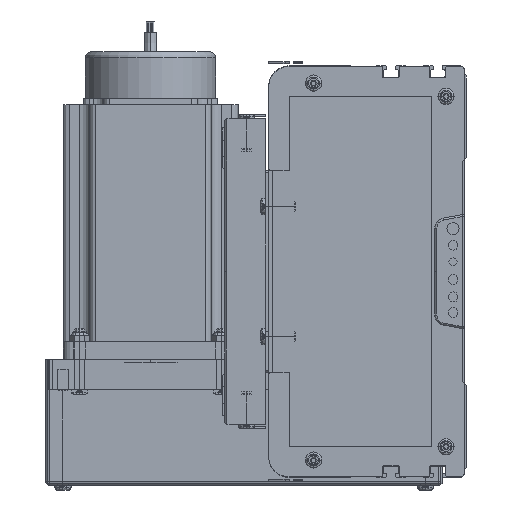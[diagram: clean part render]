
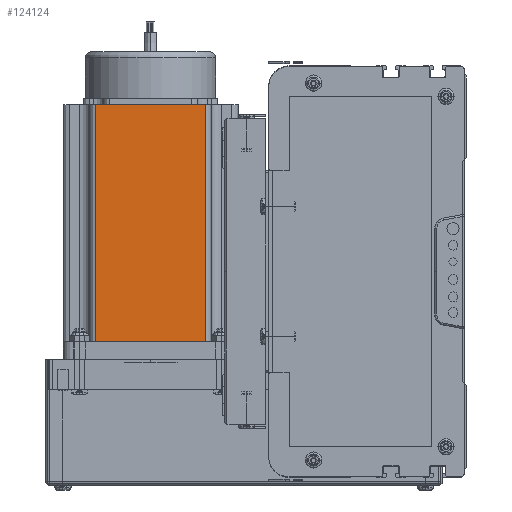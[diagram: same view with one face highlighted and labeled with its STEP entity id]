
A CAD part, left-side view. The second image highlights one B-rep face of the part: STEP entity #124124.
In plain terms, the highlighted planar face has unit normal (-1, 0, 0) as drawn and (0, -1, 0) by its records, which use the part's own axes.
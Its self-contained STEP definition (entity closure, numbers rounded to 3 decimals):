
#3696 = DIRECTION ( 'NONE',  ( 1., 0., 0. ) ) ;
#3698 = VECTOR ( 'NONE', #3696, 1000. ) ;
#3700 = CARTESIAN_POINT ( 'NONE',  ( 0., 0., 116.5 ) ) ;
#3703 = LINE ( 'NONE', #3700, #3698 ) ;
#4148 = CARTESIAN_POINT ( 'NONE',  ( 69.74, 0., 0. ) ) ;
#4286 = LINE ( 'NONE', #4773, #4763 ) ;
#4362 = PLANE ( 'NONE',  #4625 ) ;
#4411 = CARTESIAN_POINT ( 'NONE',  ( 16.16, 0., 116.5 ) ) ;
#4540 = DIRECTION ( 'NONE',  ( 1., 0., 0. ) ) ;
#4541 = VECTOR ( 'NONE', #4540, 1000. ) ;
#4543 = CARTESIAN_POINT ( 'NONE',  ( 0., 0., 0. ) ) ;
#4545 = LINE ( 'NONE', #4543, #4541 ) ;
#4550 = DIRECTION ( 'NONE',  ( 0., 0., 1. ) ) ;
#4553 = VECTOR ( 'NONE', #4550, 1000. ) ;
#4555 = CARTESIAN_POINT ( 'NONE',  ( 69.74, 0., 116.5 ) ) ;
#4557 = LINE ( 'NONE', #4555, #4553 ) ;
#4625 = AXIS2_PLACEMENT_3D ( 'NONE', #4642, #4658, #4657 ) ;
#4642 = CARTESIAN_POINT ( 'NONE',  ( 0., 0., 116.5 ) ) ;
#4648 = FACE_OUTER_BOUND ( 'NONE', #124058, .T. ) ;
#4657 = DIRECTION ( 'NONE',  ( 0., 0., 1. ) ) ;
#4658 = DIRECTION ( 'NONE',  ( 0., 1., 0. ) ) ;
#4759 = CARTESIAN_POINT ( 'NONE',  ( 69.74, 0., 116.5 ) ) ;
#4763 = VECTOR ( 'NONE', #4770, 1000. ) ;
#4770 = DIRECTION ( 'NONE',  ( 0., 0., -1. ) ) ;
#4773 = CARTESIAN_POINT ( 'NONE',  ( 16.16, 0., 116.5 ) ) ;
#5550 = CARTESIAN_POINT ( 'NONE',  ( 16.16, 0., 0. ) ) ;
#123973 = EDGE_CURVE ( 'NONE', #124087, #124068, #3703, .T. ) ;
#124057 = EDGE_CURVE ( 'NONE', #124087, #124179, #4286, .T. ) ;
#124058 = EDGE_LOOP ( 'NONE', ( #124142, #124126, #124177, #124070 ) ) ;
#124066 = VERTEX_POINT ( 'NONE', #4148 ) ;
#124068 = VERTEX_POINT ( 'NONE', #4759 ) ;
#124070 = ORIENTED_EDGE ( 'NONE', *, *, #124057, .T. ) ;
#124087 = VERTEX_POINT ( 'NONE', #4411 ) ;
#124124 = ADVANCED_FACE ( 'NONE', ( #4648 ), #4362, .F. ) ;
#124126 = ORIENTED_EDGE ( 'NONE', *, *, #124143, .T. ) ;
#124142 = ORIENTED_EDGE ( 'NONE', *, *, #124146, .T. ) ;
#124143 = EDGE_CURVE ( 'NONE', #124066, #124068, #4557, .T. ) ;
#124146 = EDGE_CURVE ( 'NONE', #124179, #124066, #4545, .T. ) ;
#124177 = ORIENTED_EDGE ( 'NONE', *, *, #123973, .F. ) ;
#124179 = VERTEX_POINT ( 'NONE', #5550 ) ;
